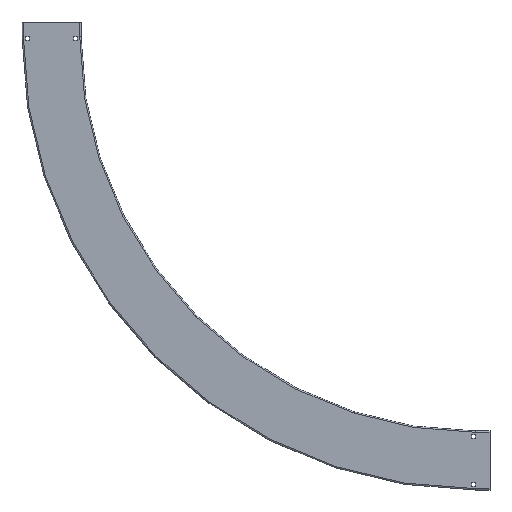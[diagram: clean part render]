
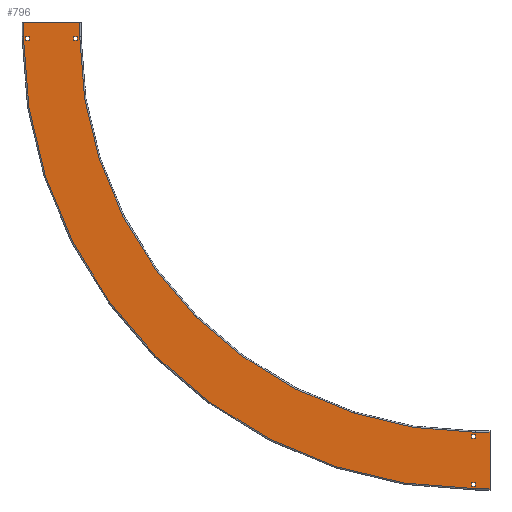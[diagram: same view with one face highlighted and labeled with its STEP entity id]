
A CAD part, left-side view. The second image highlights one B-rep face of the part: STEP entity #796.
In plain terms, the highlighted planar face has unit normal (-1, 0, 0).
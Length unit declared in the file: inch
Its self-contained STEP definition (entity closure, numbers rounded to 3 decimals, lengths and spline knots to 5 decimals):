
#1=DIRECTION('',(0.,0.,-1.));
#2=VECTOR('',#1,6.858);
#3=CARTESIAN_POINT('',(0.,-1.75,55.02));
#4=LINE('',#3,#2);
#5=DIRECTION('',(0.,1.,0.));
#6=VECTOR('',#5,6.858);
#7=CARTESIAN_POINT('',(0.,48.162,-1.75));
#8=LINE('',#7,#6);
#9=DIRECTION('',(0.,0.,-1.));
#10=VECTOR('',#9,0.41);
#11=CARTESIAN_POINT('',(0.,54.7135,0.455));
#12=LINE('',#11,#10);
#13=DIRECTION('',(0.,-1.,0.));
#14=VECTOR('',#13,0.41);
#15=CARTESIAN_POINT('',(0.,54.7135,0.045));
#16=LINE('',#15,#14);
#17=DIRECTION('',(0.,0.,1.));
#18=VECTOR('',#17,0.41);
#19=CARTESIAN_POINT('',(0.,54.3035,0.045));
#20=LINE('',#19,#18);
#21=DIRECTION('',(0.,1.,0.));
#22=VECTOR('',#21,0.41);
#23=CARTESIAN_POINT('',(0.,54.3035,0.455));
#24=LINE('',#23,#22);
#25=DIRECTION('',(0.,1.,0.));
#26=VECTOR('',#25,0.41);
#27=CARTESIAN_POINT('',(0.,48.4685,0.455));
#28=LINE('',#27,#26);
#29=DIRECTION('',(0.,0.,-1.));
#30=VECTOR('',#29,0.41);
#31=CARTESIAN_POINT('',(0.,48.8785,0.455));
#32=LINE('',#31,#30);
#33=DIRECTION('',(0.,-1.,0.));
#34=VECTOR('',#33,0.41);
#35=CARTESIAN_POINT('',(0.,48.8785,0.045));
#36=LINE('',#35,#34);
#37=DIRECTION('',(0.,0.,1.));
#38=VECTOR('',#37,0.41);
#39=CARTESIAN_POINT('',(0.,48.4685,0.045));
#40=LINE('',#39,#38);
#41=DIRECTION('',(0.,0.,-1.));
#42=VECTOR('',#41,0.41);
#43=CARTESIAN_POINT('',(0.,0.455,48.87788));
#44=LINE('',#43,#42);
#45=DIRECTION('',(0.,-1.,0.));
#46=VECTOR('',#45,0.41);
#47=CARTESIAN_POINT('',(0.,0.455,48.46788));
#48=LINE('',#47,#46);
#49=DIRECTION('',(0.,0.,1.));
#50=VECTOR('',#49,0.41);
#51=CARTESIAN_POINT('',(0.,0.045,48.46788));
#52=LINE('',#51,#50);
#53=DIRECTION('',(0.,1.,0.));
#54=VECTOR('',#53,0.41);
#55=CARTESIAN_POINT('',(0.,0.045,48.87788));
#56=LINE('',#55,#54);
#57=DIRECTION('',(0.,0.,1.));
#58=VECTOR('',#57,0.41);
#59=CARTESIAN_POINT('',(0.,0.045,54.30295));
#60=LINE('',#59,#58);
#61=DIRECTION('',(0.,1.,0.));
#62=VECTOR('',#61,0.41);
#63=CARTESIAN_POINT('',(0.,0.045,54.71295));
#64=LINE('',#63,#62);
#65=DIRECTION('',(0.,0.,-1.));
#66=VECTOR('',#65,0.41);
#67=CARTESIAN_POINT('',(0.,0.455,54.71295));
#68=LINE('',#67,#66);
#69=DIRECTION('',(0.,-1.,0.));
#70=VECTOR('',#69,0.41);
#71=CARTESIAN_POINT('',(0.,0.455,54.30295));
#72=LINE('',#71,#70);
#73=DIRECTION('',(0.,0.,1.));
#74=VECTOR('',#73,1.75);
#75=CARTESIAN_POINT('',(0.,55.02,-1.75));
#76=LINE('',#75,#74);
#114=DIRECTION('',(0.,0.,-1.));
#115=VECTOR('',#114,1.75);
#116=CARTESIAN_POINT('',(0.,48.162,0.));
#117=LINE('',#116,#115);
#123=CARTESIAN_POINT('',(0.,0.,0.));
#124=DIRECTION('',(-1.,0.,0.));
#125=DIRECTION('',(0.,0.,1.));
#126=AXIS2_PLACEMENT_3D('',#123,#124,#125);
#128=DIRECTION('',(0.,1.,0.));
#129=VECTOR('',#128,1.75);
#130=CARTESIAN_POINT('',(0.,-1.75,48.162));
#131=LINE('',#130,#129);
#169=DIRECTION('',(0.,-1.,0.));
#170=VECTOR('',#169,1.75);
#171=CARTESIAN_POINT('',(0.,0.,55.02));
#172=LINE('',#171,#170);
#178=CARTESIAN_POINT('',(0.,0.,0.));
#179=DIRECTION('',(1.,0.,0.));
#180=DIRECTION('',(0.,1.,0.));
#181=AXIS2_PLACEMENT_3D('',#178,#179,#180);
#573=CARTESIAN_POINT('',(0.,-1.75,48.162));
#575=VERTEX_POINT('',#573);
#579=CARTESIAN_POINT('',(0.,0.,48.162));
#581=VERTEX_POINT('',#579);
#585=CARTESIAN_POINT('',(0.,48.162,0.));
#587=VERTEX_POINT('',#585);
#591=CARTESIAN_POINT('',(0.,48.162,-1.75));
#593=VERTEX_POINT('',#591);
#621=CARTESIAN_POINT('',(0.,55.02,-1.75));
#622=VERTEX_POINT('',#621);
#623=CARTESIAN_POINT('',(0.,-1.75,55.02));
#624=VERTEX_POINT('',#623);
#629=CARTESIAN_POINT('',(0.,55.02,0.));
#631=VERTEX_POINT('',#629);
#635=CARTESIAN_POINT('',(0.,0.,55.02));
#637=VERTEX_POINT('',#635);
#669=CARTESIAN_POINT('',(0.,54.7135,0.455));
#670=CARTESIAN_POINT('',(0.,54.7135,0.045));
#671=VERTEX_POINT('',#669);
#672=VERTEX_POINT('',#670);
#673=CARTESIAN_POINT('',(0.,54.3035,0.045));
#674=VERTEX_POINT('',#673);
#675=CARTESIAN_POINT('',(0.,54.3035,0.455));
#676=VERTEX_POINT('',#675);
#677=CARTESIAN_POINT('',(0.,48.4685,0.455));
#678=CARTESIAN_POINT('',(0.,48.8785,0.455));
#679=VERTEX_POINT('',#677);
#680=VERTEX_POINT('',#678);
#681=CARTESIAN_POINT('',(0.,48.8785,0.045));
#682=VERTEX_POINT('',#681);
#683=CARTESIAN_POINT('',(0.,48.4685,0.045));
#684=VERTEX_POINT('',#683);
#701=CARTESIAN_POINT('',(0.,0.455,48.87788));
#702=CARTESIAN_POINT('',(0.,0.455,48.46788));
#703=VERTEX_POINT('',#701);
#704=VERTEX_POINT('',#702);
#705=CARTESIAN_POINT('',(0.,0.045,48.46788));
#706=VERTEX_POINT('',#705);
#707=CARTESIAN_POINT('',(0.,0.045,48.87788));
#708=VERTEX_POINT('',#707);
#709=CARTESIAN_POINT('',(0.,0.045,54.30295));
#710=CARTESIAN_POINT('',(0.,0.045,54.71295));
#711=VERTEX_POINT('',#709);
#712=VERTEX_POINT('',#710);
#713=CARTESIAN_POINT('',(0.,0.455,54.71295));
#714=VERTEX_POINT('',#713);
#715=CARTESIAN_POINT('',(0.,0.455,54.30295));
#716=VERTEX_POINT('',#715);
#733=CARTESIAN_POINT('',(0.,0.,0.));
#734=DIRECTION('',(1.,0.,0.));
#735=DIRECTION('',(0.,0.,-1.));
#736=AXIS2_PLACEMENT_3D('',#733,#734,#735);
#737=PLANE('',#736);
#739=ORIENTED_EDGE('',*,*,#738,.T.);
#741=ORIENTED_EDGE('',*,*,#740,.T.);
#743=ORIENTED_EDGE('',*,*,#742,.T.);
#745=ORIENTED_EDGE('',*,*,#744,.T.);
#747=ORIENTED_EDGE('',*,*,#746,.T.);
#749=ORIENTED_EDGE('',*,*,#748,.T.);
#751=ORIENTED_EDGE('',*,*,#750,.T.);
#753=ORIENTED_EDGE('',*,*,#752,.T.);
#754=EDGE_LOOP('',(#739,#741,#743,#745,#747,#749,#751,#753));
#755=FACE_OUTER_BOUND('',#754,.F.);
#757=ORIENTED_EDGE('',*,*,#756,.T.);
#759=ORIENTED_EDGE('',*,*,#758,.T.);
#761=ORIENTED_EDGE('',*,*,#760,.T.);
#763=ORIENTED_EDGE('',*,*,#762,.T.);
#764=EDGE_LOOP('',(#757,#759,#761,#763));
#765=FACE_BOUND('',#764,.F.);
#767=ORIENTED_EDGE('',*,*,#766,.T.);
#769=ORIENTED_EDGE('',*,*,#768,.T.);
#771=ORIENTED_EDGE('',*,*,#770,.T.);
#773=ORIENTED_EDGE('',*,*,#772,.T.);
#774=EDGE_LOOP('',(#767,#769,#771,#773));
#775=FACE_BOUND('',#774,.F.);
#777=ORIENTED_EDGE('',*,*,#776,.T.);
#779=ORIENTED_EDGE('',*,*,#778,.T.);
#781=ORIENTED_EDGE('',*,*,#780,.T.);
#783=ORIENTED_EDGE('',*,*,#782,.T.);
#784=EDGE_LOOP('',(#777,#779,#781,#783));
#785=FACE_BOUND('',#784,.F.);
#787=ORIENTED_EDGE('',*,*,#786,.T.);
#789=ORIENTED_EDGE('',*,*,#788,.T.);
#791=ORIENTED_EDGE('',*,*,#790,.T.);
#793=ORIENTED_EDGE('',*,*,#792,.T.);
#794=EDGE_LOOP('',(#787,#789,#791,#793));
#795=FACE_BOUND('',#794,.F.);
#796=ADVANCED_FACE('',(#755,#765,#775,#785,#795),#737,.F.);
#127=CIRCLE('',#126,48.162);
#182=CIRCLE('',#181,55.02);
#738=EDGE_CURVE('',#622,#631,#76,.T.);
#740=EDGE_CURVE('',#631,#637,#182,.T.);
#742=EDGE_CURVE('',#637,#624,#172,.T.);
#744=EDGE_CURVE('',#624,#575,#4,.T.);
#746=EDGE_CURVE('',#575,#581,#131,.T.);
#748=EDGE_CURVE('',#581,#587,#127,.T.);
#750=EDGE_CURVE('',#587,#593,#117,.T.);
#752=EDGE_CURVE('',#593,#622,#8,.T.);
#756=EDGE_CURVE('',#671,#672,#12,.T.);
#758=EDGE_CURVE('',#672,#674,#16,.T.);
#760=EDGE_CURVE('',#674,#676,#20,.T.);
#762=EDGE_CURVE('',#676,#671,#24,.T.);
#766=EDGE_CURVE('',#679,#680,#28,.T.);
#768=EDGE_CURVE('',#680,#682,#32,.T.);
#770=EDGE_CURVE('',#682,#684,#36,.T.);
#772=EDGE_CURVE('',#684,#679,#40,.T.);
#776=EDGE_CURVE('',#703,#704,#44,.T.);
#778=EDGE_CURVE('',#704,#706,#48,.T.);
#780=EDGE_CURVE('',#706,#708,#52,.T.);
#782=EDGE_CURVE('',#708,#703,#56,.T.);
#786=EDGE_CURVE('',#711,#712,#60,.T.);
#788=EDGE_CURVE('',#712,#714,#64,.T.);
#790=EDGE_CURVE('',#714,#716,#68,.T.);
#792=EDGE_CURVE('',#716,#711,#72,.T.);
